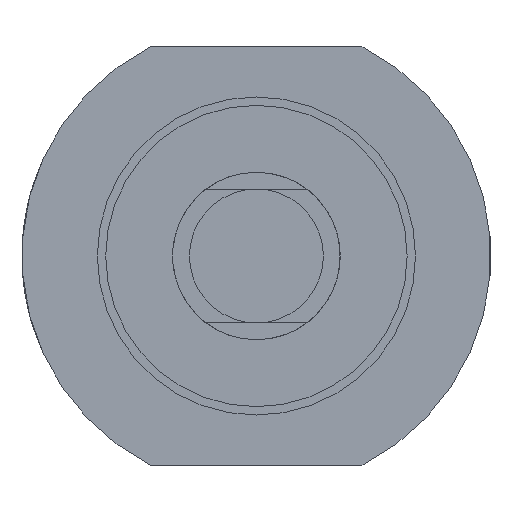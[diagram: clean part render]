
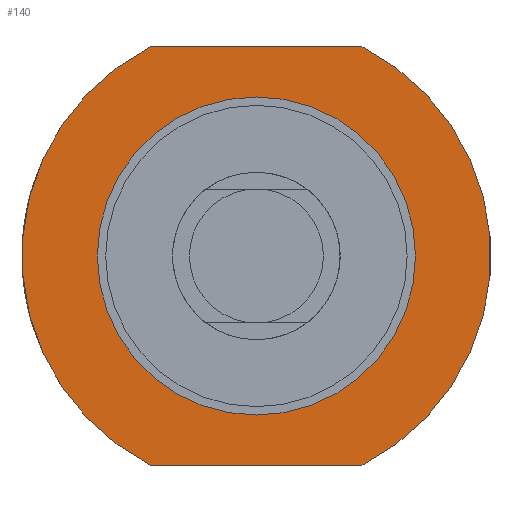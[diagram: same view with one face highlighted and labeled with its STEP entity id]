
A CAD part, left-side view. The second image highlights one B-rep face of the part: STEP entity #140.
In plain terms, the highlighted planar face has unit normal (-1, 0, 0).
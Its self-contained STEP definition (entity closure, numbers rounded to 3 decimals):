
#25 = CARTESIAN_POINT ( 'NONE',  ( 84., 11.874, 12.5 ) ) ;
#83 = AXIS2_PLACEMENT_3D ( 'NONE', #1172, #1096, #1272 ) ;
#86 = PLANE ( 'NONE',  #637 ) ;
#88 = ORIENTED_EDGE ( 'NONE', *, *, #510, .T. ) ;
#120 = CARTESIAN_POINT ( 'NONE',  ( 84., 0., -9.5 ) ) ;
#140 = ADVANCED_FACE ( 'NONE', ( #1114, #1113 ), #86, .F. ) ;
#142 = ORIENTED_EDGE ( 'NONE', *, *, #976, .T. ) ;
#163 = VERTEX_POINT ( 'NONE', #955 ) ;
#177 = DIRECTION ( 'NONE',  ( -1., 0., 0. ) ) ;
#224 = CARTESIAN_POINT ( 'NONE',  ( 84., -6.305, -12.5 ) ) ;
#260 = CARTESIAN_POINT ( 'NONE',  ( 84., 0., 0. ) ) ;
#302 = EDGE_CURVE ( 'NONE', #770, #304, #1512, .T. ) ;
#304 = VERTEX_POINT ( 'NONE', #1371 ) ;
#320 = CARTESIAN_POINT ( 'NONE',  ( 84., 6.305, 12.5 ) ) ;
#327 = VERTEX_POINT ( 'NONE', #1296 ) ;
#367 = EDGE_CURVE ( 'NONE', #567, #163, #1430, .T. ) ;
#387 = VECTOR ( 'NONE', #936, 1000. ) ;
#402 = DIRECTION ( 'NONE',  ( 0., 0., 1. ) ) ;
#440 = VERTEX_POINT ( 'NONE', #320 ) ;
#442 = CIRCLE ( 'NONE', #1187, 14. ) ;
#484 = CARTESIAN_POINT ( 'NONE',  ( 84., 0., 0. ) ) ;
#499 = CARTESIAN_POINT ( 'NONE',  ( 84., 11.874, -12.5 ) ) ;
#510 = EDGE_CURVE ( 'NONE', #567, #327, #696, .T. ) ;
#547 = AXIS2_PLACEMENT_3D ( 'NONE', #260, #177, #1342 ) ;
#567 = VERTEX_POINT ( 'NONE', #224 ) ;
#569 = ORIENTED_EDGE ( 'NONE', *, *, #367, .F. ) ;
#622 = EDGE_LOOP ( 'NONE', ( #142, #569, #88, #734 ) ) ;
#637 = AXIS2_PLACEMENT_3D ( 'NONE', #953, #1018, #898 ) ;
#643 = DIRECTION ( 'NONE',  ( -1., 0., 0. ) ) ;
#696 = CIRCLE ( 'NONE', #83, 14. ) ;
#704 = CIRCLE ( 'NONE', #1335, 9.5 ) ;
#734 = ORIENTED_EDGE ( 'NONE', *, *, #989, .F. ) ;
#770 = VERTEX_POINT ( 'NONE', #120 ) ;
#818 = ORIENTED_EDGE ( 'NONE', *, *, #1285, .F. ) ;
#849 = ORIENTED_EDGE ( 'NONE', *, *, #302, .F. ) ;
#886 = DIRECTION ( 'NONE',  ( -1., 0., 0. ) ) ;
#895 = DIRECTION ( 'NONE',  ( 0., 0., 1. ) ) ;
#898 = DIRECTION ( 'NONE',  ( 0., 0., -1. ) ) ;
#936 = DIRECTION ( 'NONE',  ( 0., 1., 0. ) ) ;
#953 = CARTESIAN_POINT ( 'NONE',  ( 84., 0., -14. ) ) ;
#955 = CARTESIAN_POINT ( 'NONE',  ( 84., 6.305, -12.5 ) ) ;
#976 = EDGE_CURVE ( 'NONE', #440, #163, #442, .T. ) ;
#989 = EDGE_CURVE ( 'NONE', #440, #327, #1451, .T. ) ;
#1018 = DIRECTION ( 'NONE',  ( 1., 0., 0. ) ) ;
#1096 = DIRECTION ( 'NONE',  ( -1., 0., 0. ) ) ;
#1113 = FACE_OUTER_BOUND ( 'NONE', #622, .T. ) ;
#1114 = FACE_BOUND ( 'NONE', #1576, .T. ) ;
#1172 = CARTESIAN_POINT ( 'NONE',  ( 84., 0., 0. ) ) ;
#1187 = AXIS2_PLACEMENT_3D ( 'NONE', #484, #643, #895 ) ;
#1212 = DIRECTION ( 'NONE',  ( 0., -1., 0. ) ) ;
#1272 = DIRECTION ( 'NONE',  ( 0., 0., 1. ) ) ;
#1285 = EDGE_CURVE ( 'NONE', #304, #770, #704, .T. ) ;
#1296 = CARTESIAN_POINT ( 'NONE',  ( 84., -6.305, 12.5 ) ) ;
#1335 = AXIS2_PLACEMENT_3D ( 'NONE', #1514, #886, #402 ) ;
#1342 = DIRECTION ( 'NONE',  ( 0., 0., 1. ) ) ;
#1371 = CARTESIAN_POINT ( 'NONE',  ( 84., 0., 9.5 ) ) ;
#1430 = LINE ( 'NONE', #499, #387 ) ;
#1451 = LINE ( 'NONE', #25, #1587 ) ;
#1512 = CIRCLE ( 'NONE', #547, 9.5 ) ;
#1514 = CARTESIAN_POINT ( 'NONE',  ( 84., 0., 0. ) ) ;
#1576 = EDGE_LOOP ( 'NONE', ( #818, #849 ) ) ;
#1587 = VECTOR ( 'NONE', #1212, 1000. ) ;
